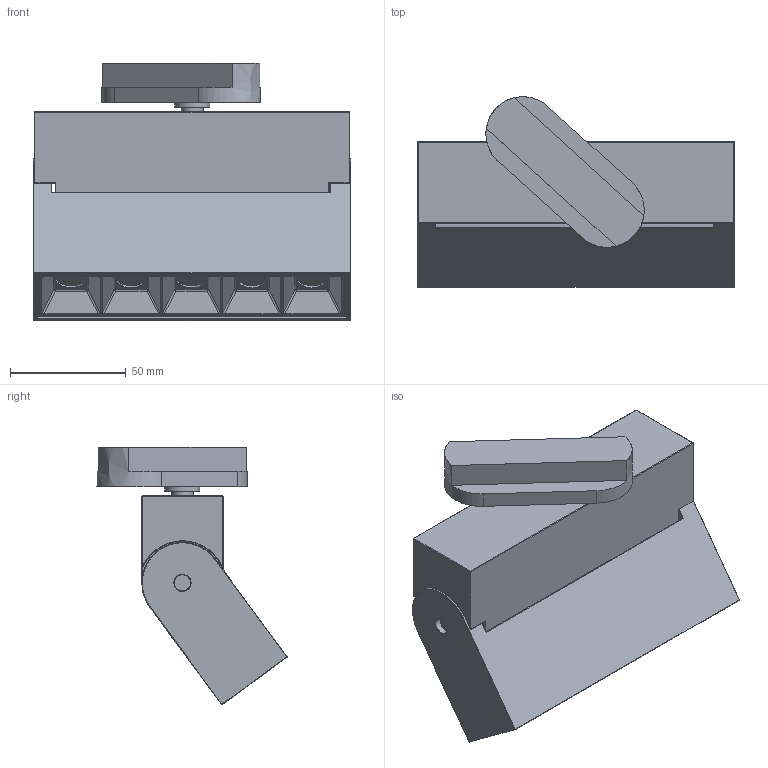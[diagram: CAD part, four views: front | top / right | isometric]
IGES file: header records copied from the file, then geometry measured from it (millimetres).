
Start section: SolidWorks IGES file using NURBS representation for surfaces
Global section: file name: Z:\Modele 3D_WWW\_KOLEKCJE WWW\PROFILE SYSTEM\PROFILE-FOCUS-LED-7618-7620-7621-7622\PROFILE-FOCUS-LED-7618-7620-7621-7622.IGS; native system: SolidWorks 2021; preprocessor: SolidWorks 2021; author: gabriela.tworek; date: 220204.121802; units: millimetre
Bounding box: 137 x 81.97 x 111.09 mm (x, y, z)
Surface area: 105611.3 mm2 (no closed solid volume)
Topology: 0 solids, 0 shells, 2416 faces, 10191 edges, 10137 vertices
Faces by surface type: bspline 2416
